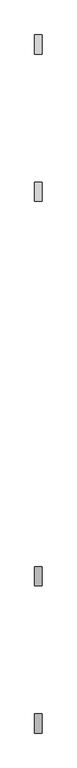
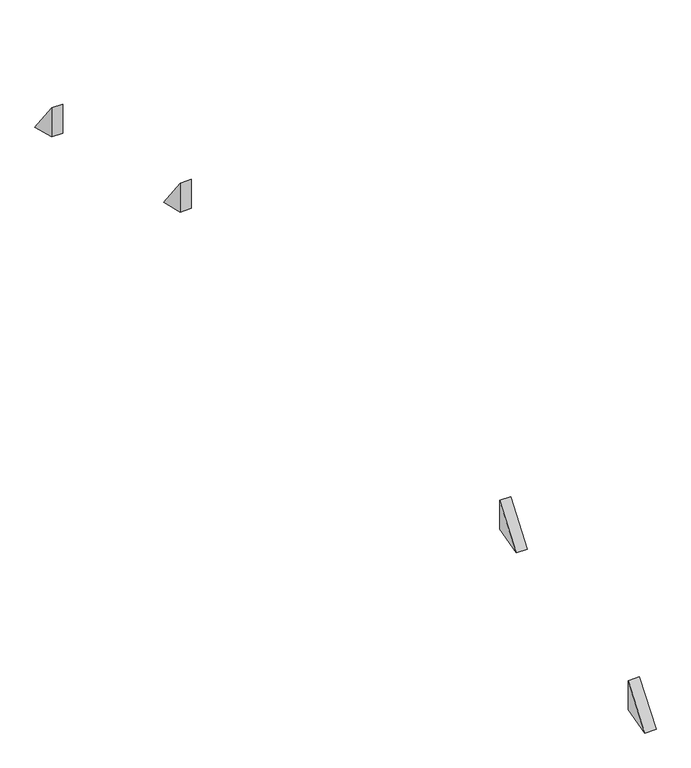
"""IFC4 building model written with IfcOpenShell, lengths in millimetres: proxy geometry, Modelos genéricos 270 : Modelos genéricos 263."""

from ifc_helpers import new_model, si_unit, frame, origin, place, context, project, spatial, polyline, outline, extrude, source, transform, mapped, element, save


def generic_models_98053da7(model_context):
    return source(origin(), model_context, "Body", "SweptSolid", [
        extrude(outline(polyline([(-726.3761835, 3560.1502649), (-881.6234997, 3521.4427616), (-726.3761835, 3725.1502649), (-726.3761835, 3560.1502649)])), frame((12873.4472467, 0.0, 0.0), z_axis=(1.0, 0.0, 0.0), x_axis=(0.0, 1.0, 0.0)), (0.0, 0.0, 1.0), 60.0),
        extrude(outline(polyline([(467.0875598, 3857.7141965), (311.8402436, 3819.0066932), (467.0875598, 4022.7141965), (467.0875598, 3857.7141965)])), frame((12873.4472467, 0.0, 0.0), z_axis=(1.0, 0.0, 0.0), x_axis=(0.0, 1.0, 0.0)), (0.0, 0.0, 1.0), 60.0),
        extrude(outline(polyline([(4623.6238165, 3560.1502649), (4623.6238165, 3725.1502649), (4778.8711327, 3521.4427616), (4623.6238165, 3560.1502649)])), frame((12873.4472467, 0.0, 0.0), z_axis=(1.0, 0.0, 0.0), x_axis=(0.0, 1.0, 0.0)), (0.0, 0.0, 1.0), 60.0),
        extrude(outline(polyline([(3430.1600732, 3857.7141965), (3430.1600732, 4022.7141965), (3585.4073894, 3819.0066932), (3430.1600732, 3857.7141965)])), frame((12873.4472467, 0.0, 0.0), z_axis=(1.0, 0.0, 0.0), x_axis=(0.0, 1.0, 0.0)), (0.0, 0.0, 1.0), 60.0),
    ])


if __name__ == "__main__":
    model = new_model("IFC4")
    model_context = context("Model", 3, world=origin())
    ifc_project = project(units=[si_unit("LENGTHUNIT", "METRE", prefix="MILLI")], contexts=[model_context])
    site = spatial("IfcSite", under=ifc_project)
    building = spatial("IfcBuilding", under=site)
    placement = place(None, origin())
    generic_models_shape = generic_models_98053da7(model_context)
    element("IfcBuildingElementProxy", 1, Name="Modelos genéricos 270 : Modelos genéricos 263", ObjectType="Modelos genéricos 270 : Modelos genéricos 263", at=placement, inside=building, context=model_context, shape_type="MappedRepresentation", body=[
        mapped(generic_models_shape, transform((0.0, 0.0, 0.0), x_axis=(1.0, 0.0, 0.0), y_axis=(0.0, 1.0, 0.0), z_axis=(0.0, 0.0, 1.0))),
    ])
    save(model, "model.ifc")
